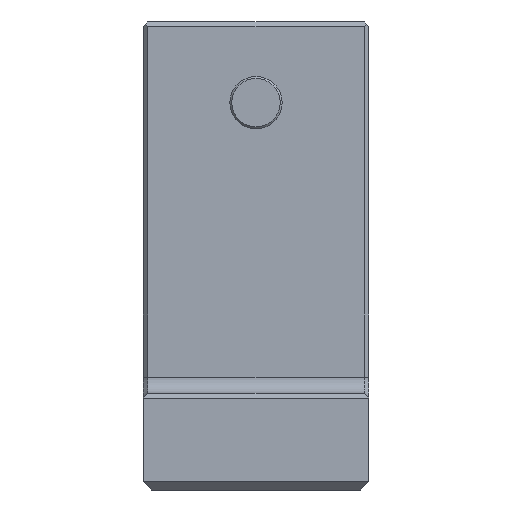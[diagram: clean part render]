
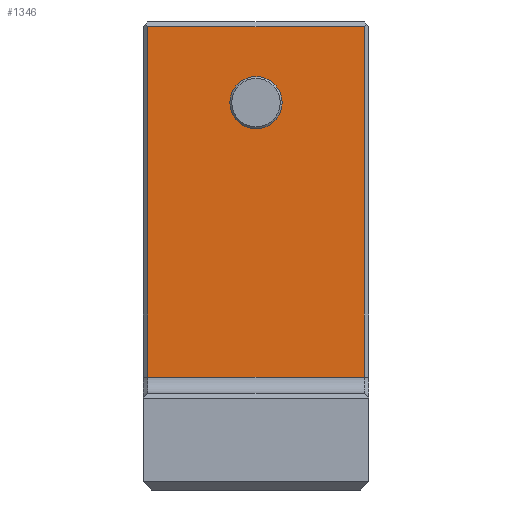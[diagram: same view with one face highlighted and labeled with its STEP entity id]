
A CAD part, front view. The second image highlights one B-rep face of the part: STEP entity #1346.
In plain terms, the highlighted planar face has unit normal (0, -1, 0).
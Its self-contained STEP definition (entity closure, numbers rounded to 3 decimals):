
#1150=CARTESIAN_POINT('',(0.3,-9.,-9.));
#1151=VERTEX_POINT('',#1150);
#1177=CARTESIAN_POINT('',(13.7,-9.,-9.));
#1178=VERTEX_POINT('',#1177);
#1218=CARTESIAN_POINT('',(0.3,-9.,12.7));
#1219=VERTEX_POINT('',#1218);
#1220=CARTESIAN_POINT('',(0.3,-9.,-9.));
#1221=DIRECTION('',(0.0,0.0,1.0));
#1222=VECTOR('',#1221,21.7);
#1223=LINE('',#1220,#1222);
#1224=EDGE_CURVE('',#1151,#1219,#1223,.T.);
#1242=CARTESIAN_POINT('',(13.7,-9.,12.7));
#1243=VERTEX_POINT('',#1242);
#1250=CARTESIAN_POINT('',(13.7,-9.,12.7));
#1251=DIRECTION('',(0.0,0.0,-1.0));
#1252=VECTOR('',#1251,21.7);
#1253=LINE('',#1250,#1252);
#1254=EDGE_CURVE('',#1243,#1178,#1253,.T.);
#1310=CARTESIAN_POINT('',(13.7,-9.,-9.));
#1311=DIRECTION('',(-1.0,0.0,0.0));
#1312=VECTOR('',#1311,13.4);
#1313=LINE('',#1310,#1312);
#1314=EDGE_CURVE('',#1178,#1151,#1313,.T.);
#1319=CARTESIAN_POINT('',(0.0,-9.,-10.));
#1320=DIRECTION('',(0.0,-1.0,0.0));
#1321=DIRECTION('',(0.0,0.0,-1.0));
#1322=AXIS2_PLACEMENT_3D('',#1319,#1320,#1321);
#1323=PLANE('',#1322);
#1324=ORIENTED_EDGE('',*,*,#1224,.F.);
#1325=ORIENTED_EDGE('',*,*,#1314,.F.);
#1326=ORIENTED_EDGE('',*,*,#1254,.F.);
#1327=CARTESIAN_POINT('',(0.3,-9.,12.7));
#1328=DIRECTION('',(1.0,0.0,0.0));
#1329=VECTOR('',#1328,13.4);
#1330=LINE('',#1327,#1329);
#1331=EDGE_CURVE('',#1219,#1243,#1330,.T.);
#1332=ORIENTED_EDGE('',*,*,#1331,.F.);
#1333=EDGE_LOOP('',(#1324,#1325,#1326,#1332));
#1334=FACE_OUTER_BOUND('',#1333,.T.);
#1335=CARTESIAN_POINT('',(8.621,-9.,8.));
#1336=VERTEX_POINT('',#1335);
#1337=CARTESIAN_POINT('',(7.,-9.,8.));
#1338=DIRECTION('',(0.0,1.0,0.0));
#1339=DIRECTION('',(-1.0,0.0,0.0));
#1340=AXIS2_PLACEMENT_3D('',#1337,#1338,#1339);
#1341=CIRCLE('',#1340,1.621);
#1342=EDGE_CURVE('',#1336,#1336,#1341,.T.);
#1343=ORIENTED_EDGE('',*,*,#1342,.T.);
#1344=EDGE_LOOP('',(#1343));
#1345=FACE_BOUND('',#1344,.T.);
#1346=ADVANCED_FACE('',(#1334,#1345),#1323,.T.);
